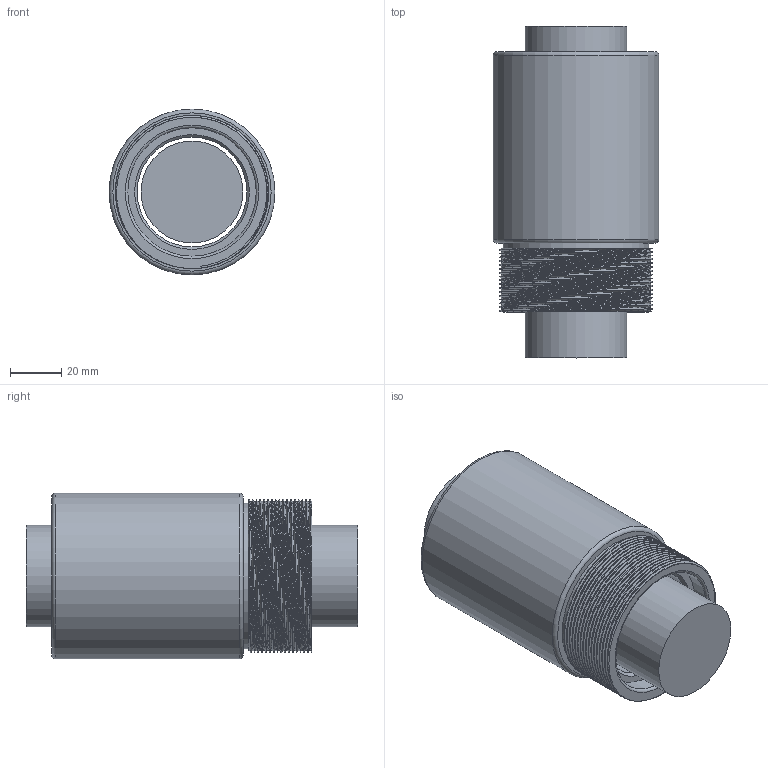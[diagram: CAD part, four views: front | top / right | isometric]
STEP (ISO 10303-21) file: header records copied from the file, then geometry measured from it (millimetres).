
FILE_DESCRIPTION(/* description */ (''),/* implementation_level */ '2;1');
FILE_NAME(/* name */ '4010.prt.step',/* time_stamp */ '2008-12-05T09:44:36+08:00',/* author */ (''),/* organization */ (''),/* preprocessor_version */ 'ST-DEVELOPER v11',/* originating_system */ 'SIEMENS UGS NX 6.0',/* authorisation */ '');
FILE_SCHEMA (('AUTOMOTIVE_DESIGN { 1 0 10303 214 1 1 1 1 }'));
Length unit declared in the file: millimetre
Products named in the file (1): 4010
Bounding box: 65 x 130 x 65 mm (x, y, z)
Volume: 330412.1 mm3; surface area: 59518.2 mm2
Topology: 2 solids, 2 shells, 24 faces, 46 edges, 30 vertices
Faces by surface type: cylinder 8, plane 8, torus 4, bspline 2, cone 2
Full cylindrical faces by diameter (mm): 39.95 x1, 43 x1, 50.3 x2, 57 x1, 65 x1
Entity records: 4176 total; most frequent: CARTESIAN_POINT 3725, DIRECTION 90, ORIENTED_EDGE 60, AXIS2_PLACEMENT_3D 45, EDGE_LOOP 42, FACE_BOUND 36, EDGE_CURVE 30, VERTEX_POINT 26
